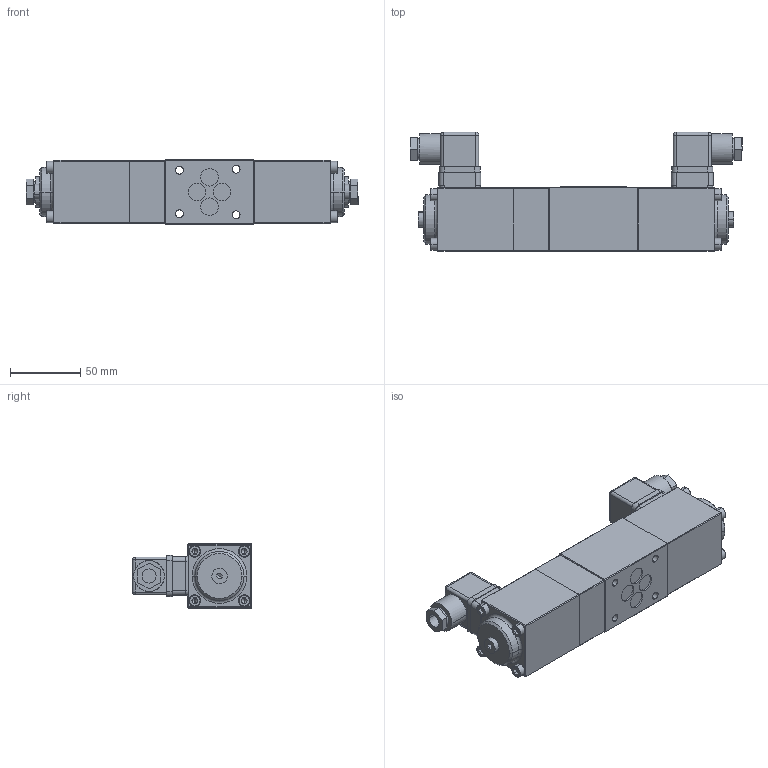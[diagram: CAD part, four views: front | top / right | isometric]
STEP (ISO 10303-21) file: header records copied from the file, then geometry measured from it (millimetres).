
FILE_DESCRIPTION (( 'STEP AP214' ), '1' );
FILE_NAME ('A.2206ra.STEP', '2024-02-15T14:51:37', ( '' ), ( '' ), 'SwSTEP 2.0', 'SolidWorks 2022', '' );
FILE_SCHEMA (( 'AUTOMOTIVE_DESIGN' ));
Length unit declared in the file: millimetre
Products named in the file (1): A.2206ra
Bounding box: 237 x 85.3 x 46 mm (x, y, z)
Volume: 493878.6 mm3; surface area: 60257.8 mm2
Topology: 1 solids, 1 shells, 460 faces, 1089 edges, 652 vertices
Faces by surface type: plane 300, cylinder 108, cone 24, torus 20, bspline 8
Entity records: 17892 total; most frequent: CARTESIAN_POINT 2418, DIRECTION 2271, ORIENTED_EDGE 2122, EDGE_CURVE 1061, AXIS2_PLACEMENT_3D 777, LINE 717, VECTOR 717, VERTEX_POINT 652
